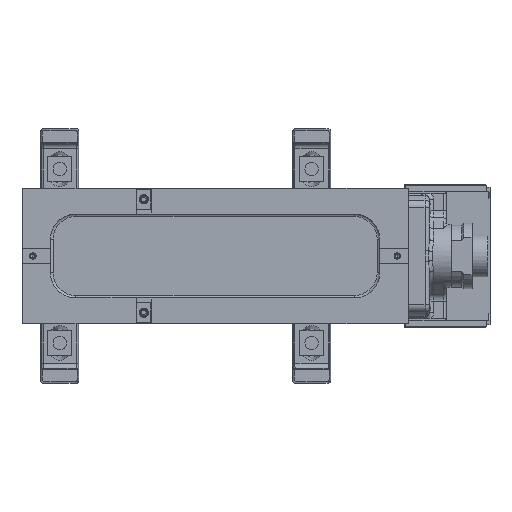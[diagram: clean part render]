
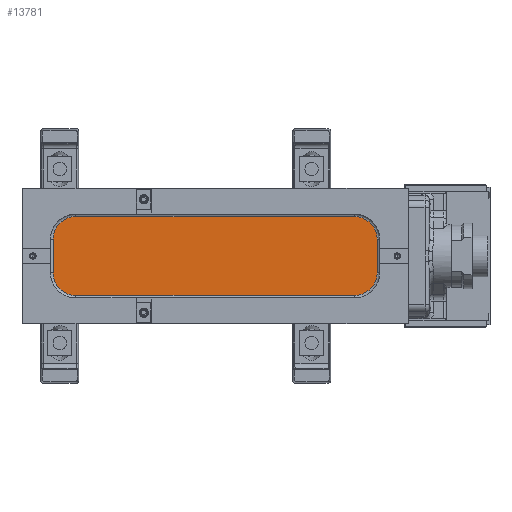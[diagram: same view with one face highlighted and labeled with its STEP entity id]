
A CAD part, front view. The second image highlights one B-rep face of the part: STEP entity #13781.
In plain terms, the highlighted planar face has unit normal (0, -1, 0).
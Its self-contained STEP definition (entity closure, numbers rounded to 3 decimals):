
#177 = CIRCLE ( 'NONE', #35290, 27. ) ;
#1891 = EDGE_LOOP ( 'NONE', ( #24755, #26198, #38405, #42151, #27773, #20929, #34923, #37723 ) ) ;
#4400 = CARTESIAN_POINT ( 'NONE',  ( -81., -58., -47. ) ) ;
#4446 = CARTESIAN_POINT ( 'NONE',  ( -81., -58., 47. ) ) ;
#5260 = CARTESIAN_POINT ( 'NONE',  ( 278., -58., 20. ) ) ;
#5342 = EDGE_CURVE ( 'NONE', #36973, #39436, #52755, .T. ) ;
#5962 = CARTESIAN_POINT ( 'NONE',  ( 278., -58., 20. ) ) ;
#6675 = DIRECTION ( 'NONE',  ( 0., 0., 1. ) ) ;
#7074 = VERTEX_POINT ( 'NONE', #32002 ) ;
#7117 = LINE ( 'NONE', #43051, #28487 ) ;
#8337 = VERTEX_POINT ( 'NONE', #9953 ) ;
#8544 = DIRECTION ( 'NONE',  ( 0., 0., 1. ) ) ;
#9953 = CARTESIAN_POINT ( 'NONE',  ( 251., -58., -47. ) ) ;
#10326 = CARTESIAN_POINT ( 'NONE',  ( 251., -58., -47. ) ) ;
#10971 = CIRCLE ( 'NONE', #28025, 27. ) ;
#11014 = VERTEX_POINT ( 'NONE', #30575 ) ;
#11294 = DIRECTION ( 'NONE',  ( 0., 0., -1. ) ) ;
#11728 = CARTESIAN_POINT ( 'NONE',  ( -81., -58., 20. ) ) ;
#11774 = CIRCLE ( 'NONE', #17470, 27. ) ;
#13074 = EDGE_CURVE ( 'NONE', #19450, #8337, #41516, .T. ) ;
#13324 = AXIS2_PLACEMENT_3D ( 'NONE', #46057, #15175, #50507 ) ;
#13781 = ADVANCED_FACE ( 'NONE', ( #36566 ), #32391, .F. ) ;
#14353 = EDGE_CURVE ( 'NONE', #8337, #7074, #18147, .T. ) ;
#14460 = CARTESIAN_POINT ( 'NONE',  ( -81., -58., -20. ) ) ;
#15175 = DIRECTION ( 'NONE',  ( 0., 1., 0. ) ) ;
#15441 = EDGE_CURVE ( 'NONE', #50839, #19450, #177, .T. ) ;
#16548 = CARTESIAN_POINT ( 'NONE',  ( -81., -58., 47. ) ) ;
#17456 = VECTOR ( 'NONE', #37067, 1000. ) ;
#17470 = AXIS2_PLACEMENT_3D ( 'NONE', #26085, #27278, #8544 ) ;
#17731 = DIRECTION ( 'NONE',  ( 0., 0., 1. ) ) ;
#18147 = CIRCLE ( 'NONE', #36134, 27. ) ;
#19265 = EDGE_CURVE ( 'NONE', #11014, #50839, #7117, .T. ) ;
#19450 = VERTEX_POINT ( 'NONE', #4400 ) ;
#20929 = ORIENTED_EDGE ( 'NONE', *, *, #19265, .T. ) ;
#24755 = ORIENTED_EDGE ( 'NONE', *, *, #14353, .T. ) ;
#25345 = CARTESIAN_POINT ( 'NONE',  ( -108., -58., -20. ) ) ;
#26061 = EDGE_CURVE ( 'NONE', #53072, #36973, #11774, .T. ) ;
#26085 = CARTESIAN_POINT ( 'NONE',  ( 251., -58., 20. ) ) ;
#26198 = ORIENTED_EDGE ( 'NONE', *, *, #28479, .T. ) ;
#27278 = DIRECTION ( 'NONE',  ( 0., -1., 0. ) ) ;
#27773 = ORIENTED_EDGE ( 'NONE', *, *, #27920, .T. ) ;
#27920 = EDGE_CURVE ( 'NONE', #39436, #11014, #10971, .T. ) ;
#28025 = AXIS2_PLACEMENT_3D ( 'NONE', #11728, #51838, #6675 ) ;
#28479 = EDGE_CURVE ( 'NONE', #7074, #53072, #55591, .T. ) ;
#28487 = VECTOR ( 'NONE', #11294, 1000. ) ;
#30575 = CARTESIAN_POINT ( 'NONE',  ( -108., -58., 20. ) ) ;
#32002 = CARTESIAN_POINT ( 'NONE',  ( 278., -58., -20. ) ) ;
#32391 = PLANE ( 'NONE',  #13324 ) ;
#34923 = ORIENTED_EDGE ( 'NONE', *, *, #15441, .T. ) ;
#35290 = AXIS2_PLACEMENT_3D ( 'NONE', #14460, #45338, #36744 ) ;
#36134 = AXIS2_PLACEMENT_3D ( 'NONE', #40270, #58383, #17731 ) ;
#36566 = FACE_OUTER_BOUND ( 'NONE', #1891, .T. ) ;
#36744 = DIRECTION ( 'NONE',  ( 0., 0., 1. ) ) ;
#36973 = VERTEX_POINT ( 'NONE', #56190 ) ;
#37067 = DIRECTION ( 'NONE',  ( 1., 0., 0. ) ) ;
#37723 = ORIENTED_EDGE ( 'NONE', *, *, #13074, .T. ) ;
#38187 = VECTOR ( 'NONE', #39068, 1000. ) ;
#38405 = ORIENTED_EDGE ( 'NONE', *, *, #26061, .T. ) ;
#39068 = DIRECTION ( 'NONE',  ( -1., 0., 0. ) ) ;
#39436 = VERTEX_POINT ( 'NONE', #4446 ) ;
#40270 = CARTESIAN_POINT ( 'NONE',  ( 251., -58., -20. ) ) ;
#41516 = LINE ( 'NONE', #10326, #17456 ) ;
#42151 = ORIENTED_EDGE ( 'NONE', *, *, #5342, .T. ) ;
#43051 = CARTESIAN_POINT ( 'NONE',  ( -108., -58., -20. ) ) ;
#45338 = DIRECTION ( 'NONE',  ( 0., -1., 0. ) ) ;
#46057 = CARTESIAN_POINT ( 'NONE',  ( 251., -58., 20. ) ) ;
#46371 = DIRECTION ( 'NONE',  ( 0., 0., 1. ) ) ;
#50507 = DIRECTION ( 'NONE',  ( 0., 0., 1. ) ) ;
#50839 = VERTEX_POINT ( 'NONE', #25345 ) ;
#51838 = DIRECTION ( 'NONE',  ( 0., -1., 0. ) ) ;
#52755 = LINE ( 'NONE', #16548, #38187 ) ;
#53072 = VERTEX_POINT ( 'NONE', #5260 ) ;
#55591 = LINE ( 'NONE', #5962, #56514 ) ;
#56190 = CARTESIAN_POINT ( 'NONE',  ( 251., -58., 47. ) ) ;
#56514 = VECTOR ( 'NONE', #46371, 1000. ) ;
#58383 = DIRECTION ( 'NONE',  ( 0., -1., 0. ) ) ;
